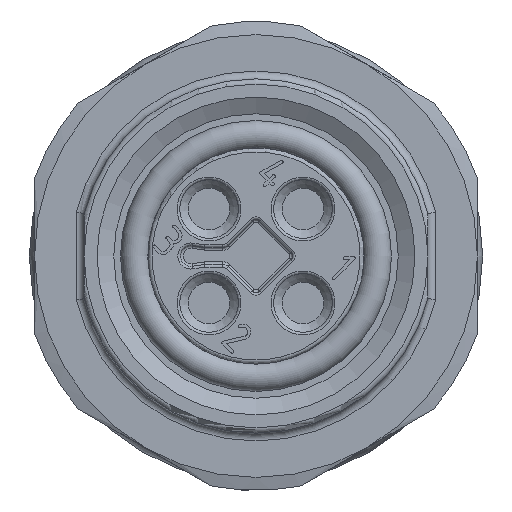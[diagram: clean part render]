
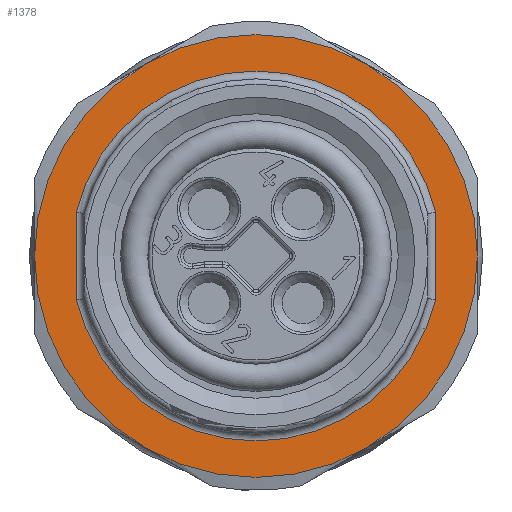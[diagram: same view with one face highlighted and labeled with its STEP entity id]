
A CAD part, left-side view. The second image highlights one B-rep face of the part: STEP entity #1378.
In plain terms, the highlighted planar face has unit normal (-1, 0, 0).
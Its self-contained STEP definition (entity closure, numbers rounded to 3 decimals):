
#532=PLANE('',#4857);
#691=LINE('',#6763,#1027);
#692=LINE('',#6767,#1028);
#1027=VECTOR('',#5412,1.);
#1028=VECTOR('',#5415,1.);
#1378=ADVANCED_FACE('',(#1729,#1730),#532,.T.);
#1729=FACE_BOUND('',#1874,.T.);
#1730=FACE_BOUND('',#1875,.T.);
#1874=EDGE_LOOP('',(#2301,#2302,#2303,#2304));
#1875=EDGE_LOOP('',(#2305,#2306,#2307,#2308,#2309,#2310));
#2301=ORIENTED_EDGE('',*,*,#4028,.T.);
#2302=ORIENTED_EDGE('',*,*,#4029,.T.);
#2303=ORIENTED_EDGE('',*,*,#4030,.T.);
#2304=ORIENTED_EDGE('',*,*,#4031,.T.);
#2305=ORIENTED_EDGE('',*,*,#4023,.T.);
#2306=ORIENTED_EDGE('',*,*,#4032,.T.);
#2307=ORIENTED_EDGE('',*,*,#3999,.T.);
#2308=ORIENTED_EDGE('',*,*,#4005,.T.);
#2309=ORIENTED_EDGE('',*,*,#4011,.T.);
#2310=ORIENTED_EDGE('',*,*,#4017,.T.);
#3557=VERTEX_POINT('',#6675);
#3558=VERTEX_POINT('',#6680);
#3561=VERTEX_POINT('',#6697);
#3564=VERTEX_POINT('',#6714);
#3567=VERTEX_POINT('',#6731);
#3570=VERTEX_POINT('',#6748);
#3575=VERTEX_POINT('',#6761);
#3576=VERTEX_POINT('',#6762);
#3577=VERTEX_POINT('',#6764);
#3578=VERTEX_POINT('',#6766);
#3999=EDGE_CURVE('',#3557,#3558,#4622,.T.);
#4005=EDGE_CURVE('',#3558,#3561,#4624,.T.);
#4011=EDGE_CURVE('',#3561,#3564,#4626,.T.);
#4017=EDGE_CURVE('',#3564,#3567,#4628,.T.);
#4023=EDGE_CURVE('',#3567,#3570,#4630,.T.);
#4028=EDGE_CURVE('',#3575,#3576,#4633,.T.);
#4029=EDGE_CURVE('',#3576,#3577,#691,.T.);
#4030=EDGE_CURVE('',#3577,#3578,#4634,.T.);
#4031=EDGE_CURVE('',#3578,#3575,#692,.T.);
#4032=EDGE_CURVE('',#3570,#3557,#4635,.T.);
#4622=CIRCLE('',#4833,8.5);
#4624=CIRCLE('',#4837,8.5);
#4626=CIRCLE('',#4841,8.5);
#4628=CIRCLE('',#4845,8.5);
#4630=CIRCLE('',#4849,8.5);
#4633=CIRCLE('',#4854,7.1);
#4634=CIRCLE('',#4855,7.1);
#4635=CIRCLE('',#4856,8.5);
#4833=AXIS2_PLACEMENT_3D('',#6681,#5358,#5359);
#4837=AXIS2_PLACEMENT_3D('',#6698,#5368,#5369);
#4841=AXIS2_PLACEMENT_3D('',#6715,#5378,#5379);
#4845=AXIS2_PLACEMENT_3D('',#6732,#5388,#5389);
#4849=AXIS2_PLACEMENT_3D('',#6749,#5398,#5399);
#4854=AXIS2_PLACEMENT_3D('',#6760,#5410,#5411);
#4855=AXIS2_PLACEMENT_3D('',#6765,#5413,#5414);
#4856=AXIS2_PLACEMENT_3D('',#6768,#5416,#5417);
#4857=AXIS2_PLACEMENT_3D('',#6769,#5418,#5419);
#5358=DIRECTION('',(-1.,0.,0.));
#5359=DIRECTION('',(0.,0.,1.));
#5368=DIRECTION('',(-1.,0.,0.));
#5369=DIRECTION('',(0.,0.,1.));
#5378=DIRECTION('',(-1.,0.,0.));
#5379=DIRECTION('',(0.,0.,1.));
#5388=DIRECTION('',(-1.,0.,0.));
#5389=DIRECTION('',(0.,0.,1.));
#5398=DIRECTION('',(-1.,0.,0.));
#5399=DIRECTION('',(0.,0.,1.));
#5410=DIRECTION('',(1.,0.,0.));
#5411=DIRECTION('',(0.,0.,1.));
#5412=DIRECTION('',(0.,0.,1.));
#5413=DIRECTION('',(1.,0.,0.));
#5414=DIRECTION('',(0.,0.,1.));
#5415=DIRECTION('',(0.,0.,-1.));
#5416=DIRECTION('',(-1.,0.,0.));
#5417=DIRECTION('',(0.,0.,1.));
#5418=DIRECTION('',(-1.,0.,0.));
#5419=DIRECTION('',(0.,0.,-1.));
#6675=CARTESIAN_POINT('',(8.,4.25,-7.361));
#6680=CARTESIAN_POINT('',(8.,-4.25,-7.361));
#6681=CARTESIAN_POINT('',(8.,0.,0.));
#6697=CARTESIAN_POINT('',(8.,-8.5,0.));
#6698=CARTESIAN_POINT('',(8.,0.,0.));
#6714=CARTESIAN_POINT('',(8.,-4.25,7.361));
#6715=CARTESIAN_POINT('',(8.,0.,0.));
#6731=CARTESIAN_POINT('',(8.,4.25,7.361));
#6732=CARTESIAN_POINT('',(8.,0.,0.));
#6748=CARTESIAN_POINT('',(8.,8.5,0.));
#6749=CARTESIAN_POINT('',(8.,0.,0.));
#6760=CARTESIAN_POINT('',(8.,0.,0.));
#6761=CARTESIAN_POINT('',(8.,-6.9,-1.673));
#6762=CARTESIAN_POINT('',(8.,6.9,-1.673));
#6763=CARTESIAN_POINT('',(8.,6.9,0.));
#6764=CARTESIAN_POINT('',(8.,6.9,1.673));
#6765=CARTESIAN_POINT('',(8.,0.,0.));
#6766=CARTESIAN_POINT('',(8.,-6.9,1.673));
#6767=CARTESIAN_POINT('',(8.,-6.9,0.));
#6768=CARTESIAN_POINT('',(8.,0.,0.));
#6769=CARTESIAN_POINT('',(8.,0.,0.));
